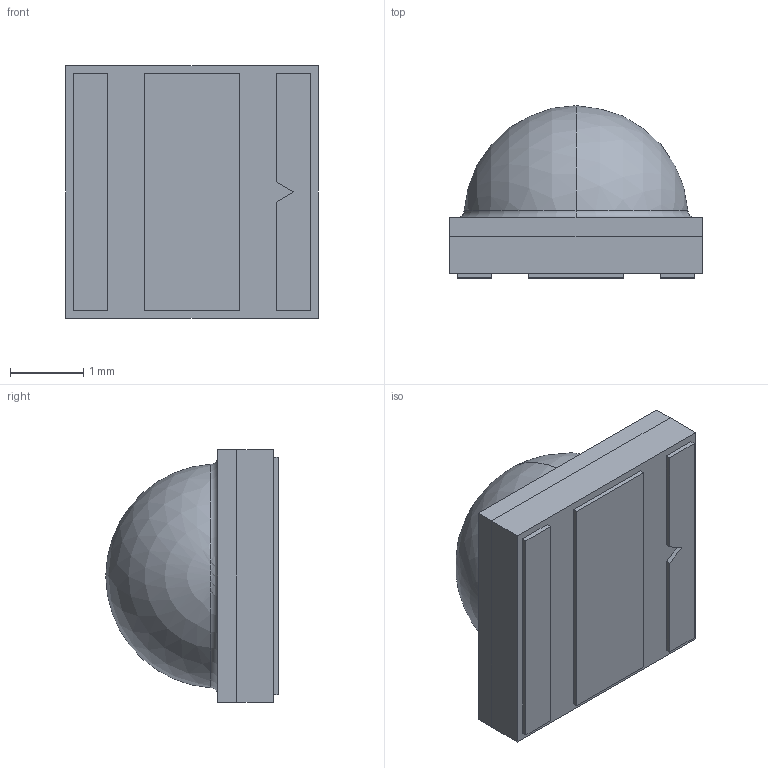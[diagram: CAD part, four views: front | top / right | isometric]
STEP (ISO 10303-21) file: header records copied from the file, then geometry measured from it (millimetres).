
FILE_DESCRIPTION (( 'STEP AP203' ), '1' );
FILE_NAME ('TF1&TF2&TG2-Å¯°×.STEP', '2024-01-18T06:43:25', ( '' ), ( '' ), 'SwSTEP 2.0', 'SolidWorks 2016', '' );
FILE_SCHEMA (( 'CONFIG_CONTROL_DESIGN' ));
Length unit declared in the file: millimetre
Products named in the file (1): TF1&TF2&TG2-轡啞
Bounding box: 3.45 x 2.35 x 3.45 mm (x, y, z)
Volume: 17 mm3; surface area: 66.6 mm2
Topology: 2 solids, 2 shells, 34 faces, 77 edges, 51 vertices
Faces by surface type: plane 30, torus 2, sphere 2
Entity records: 1016 total; most frequent: CARTESIAN_POINT 163, DIRECTION 155, ORIENTED_EDGE 154, EDGE_CURVE 77, VECTOR 69, LINE 69, VERTEX_POINT 51, AXIS2_PLACEMENT_3D 43
